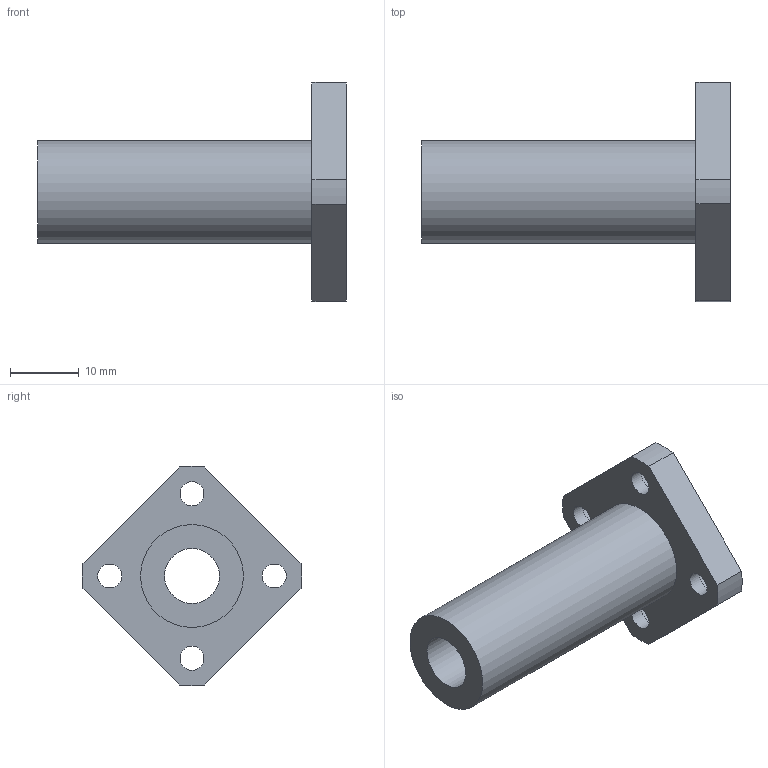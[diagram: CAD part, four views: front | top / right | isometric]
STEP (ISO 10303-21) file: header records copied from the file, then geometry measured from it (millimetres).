
FILE_DESCRIPTION(/* description */ ('Unknown'),/* implementation_level */ '2;1');
FILE_NAME(/* name */ 'LMK8LUU',/* time_stamp */ '2025-02-04T10:37:02+08:00',/* author */ ('Unknown'),/* organization */ ('Unknown'),/* preprocessor_version */ 'ST-DEVELOPER v18.102',/* originating_system */ 'Solid Edge',/* authorisation */ 'Unknown');
FILE_SCHEMA (('AUTOMOTIVE_DESIGN {1 0 10303 214 3 1 1}'));
Length unit declared in the file: millimetre
Products named in the file (1): LMK8LUU
Bounding box: 45 x 31.98 x 31.98 mm (x, y, z)
Volume: 7449.5 mm3; surface area: 4853.1 mm2
Topology: 1 solids, 1 shells, 25 faces, 54 edges, 36 vertices
Faces by surface type: cylinder 14, plane 11
Full cylindrical faces by diameter (mm): 3.5 x4, 6 x4, 8 x1, 15 x1
Entity records: 696 total; most frequent: DIRECTION 124, CARTESIAN_POINT 106, ORIENTED_EDGE 88, AXIS2_PLACEMENT_3D 54, EDGE_LOOP 50, FACE_BOUND 50, EDGE_CURVE 44, VERTEX_POINT 36
